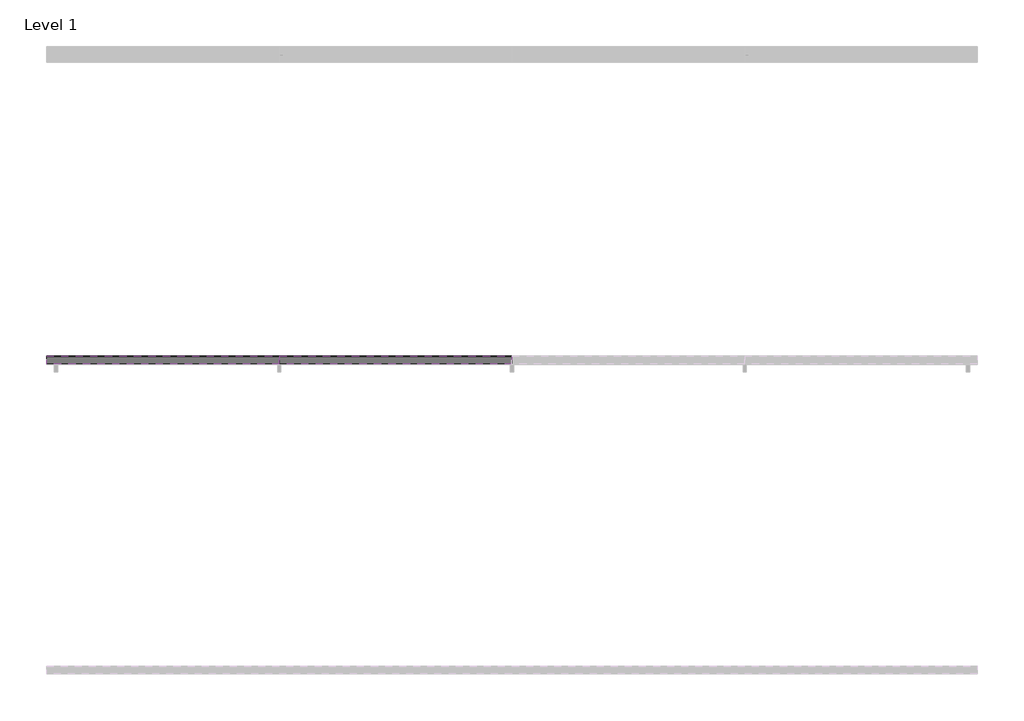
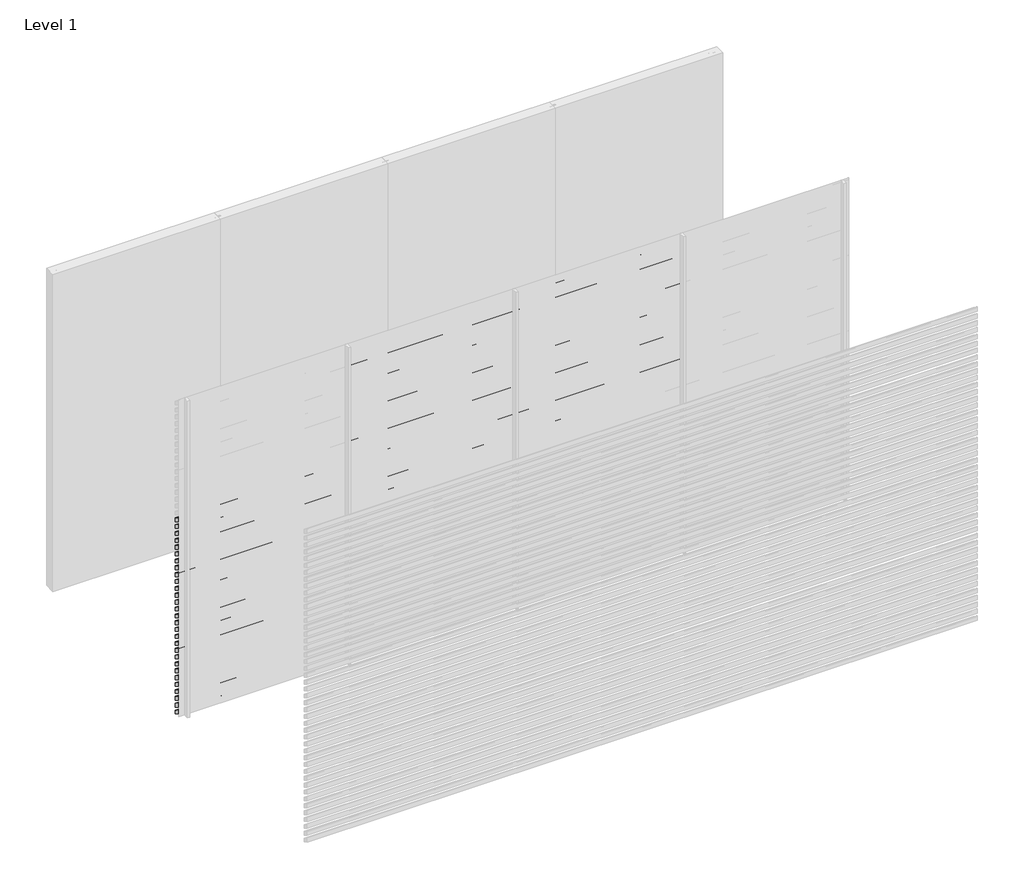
# One storey, part 7 of 10: 97 proxies.
"""IFC4 building model written with IfcOpenShell, lengths in millimetres."""

from ifc_helpers import new_model, si_unit, frame, origin, place, context, project, spatial, polyline, outline, extrude, element, save

model = new_model("IFC4")

# Units and contexts
model_context = context("Model", 3, world=origin())
ifc_project = project(units=[si_unit("LENGTHUNIT", "METRE", prefix="MILLI")], contexts=[model_context])

# Site, building, storey
site = spatial("IfcSite", under=ifc_project)
building = spatial("IfcBuilding", under=site)
storey = spatial("IfcBuildingStorey", under=building, Name="Level 1", Elevation=0.0)

# Proxies
placement = place(None, origin())
element("IfcBuildingElementProxy", 1, Name="Wall Sweeps", at=placement, inside=storey, context=model_context, shape_type="SweptSolid", body=[
    extrude(outline(polyline([(-5995.0, 1885.0), (-5995.0, 1876.2901632), (-5946.0, 1848.0), (-5946.0, 1813.0), (-5997.0, 1842.4448637), (-5997.0, 1885.0), (-5995.0, 1885.0)])), frame((0.0, 0.0, 0.0), z_axis=(1.0, 0.0, 0.0), x_axis=(0.0, 1.0, 0.0)), (0.0, 0.0, 1.0), 1500.0),
])
element("IfcBuildingElementProxy", 2, Name="Wall Sweeps", at=placement, inside=storey, context=model_context, shape_type="SweptSolid", body=[
    extrude(outline(polyline([(-5995.0, 1820.0), (-5995.0, 1811.2901632), (-5946.0, 1783.0), (-5946.0, 1748.0), (-5997.0, 1777.4448637), (-5997.0, 1820.0), (-5995.0, 1820.0)])), frame((0.0, 0.0, 0.0), z_axis=(1.0, 0.0, 0.0), x_axis=(0.0, 1.0, 0.0)), (0.0, 0.0, 1.0), 1500.0),
])
element("IfcBuildingElementProxy", 3, Name="Wall Sweeps", at=placement, inside=storey, context=model_context, shape_type="SweptSolid", body=[
    extrude(outline(polyline([(-5995.0, 1755.0), (-5995.0, 1746.2901632), (-5946.0, 1718.0), (-5946.0, 1683.0), (-5997.0, 1712.4448637), (-5997.0, 1755.0), (-5995.0, 1755.0)])), frame((0.0, 0.0, 0.0), z_axis=(1.0, 0.0, 0.0), x_axis=(0.0, 1.0, 0.0)), (0.0, 0.0, 1.0), 1500.0),
])
element("IfcBuildingElementProxy", 4, Name="Wall Sweeps", at=placement, inside=storey, context=model_context, shape_type="SweptSolid", body=[
    extrude(outline(polyline([(-5995.0, 1690.0), (-5995.0, 1681.2901632), (-5946.0, 1653.0), (-5946.0, 1618.0), (-5997.0, 1647.4448637), (-5997.0, 1690.0), (-5995.0, 1690.0)])), frame((0.0, 0.0, 0.0), z_axis=(1.0, 0.0, 0.0), x_axis=(0.0, 1.0, 0.0)), (0.0, 0.0, 1.0), 1500.0),
])
element("IfcBuildingElementProxy", 5, Name="Wall Sweeps", at=placement, inside=storey, context=model_context, shape_type="SweptSolid", body=[
    extrude(outline(polyline([(-5995.0, 1625.0), (-5995.0, 1616.2901632), (-5946.0, 1588.0), (-5946.0, 1553.0), (-5997.0, 1582.4448637), (-5997.0, 1625.0), (-5995.0, 1625.0)])), frame((0.0, 0.0, 0.0), z_axis=(1.0, 0.0, 0.0), x_axis=(0.0, 1.0, 0.0)), (0.0, 0.0, 1.0), 1500.0),
])
element("IfcBuildingElementProxy", 6, Name="Wall Sweeps", at=placement, inside=storey, context=model_context, shape_type="SweptSolid", body=[
    extrude(outline(polyline([(-5995.0, 1560.0), (-5995.0, 1551.2901632), (-5946.0, 1523.0), (-5946.0, 1488.0), (-5997.0, 1517.4448637), (-5997.0, 1560.0), (-5995.0, 1560.0)])), frame((0.0, 0.0, 0.0), z_axis=(1.0, 0.0, 0.0), x_axis=(0.0, 1.0, 0.0)), (0.0, 0.0, 1.0), 1500.0),
])
element("IfcBuildingElementProxy", 7, Name="Wall Sweeps", at=placement, inside=storey, context=model_context, shape_type="SweptSolid", body=[
    extrude(outline(polyline([(-5995.0, 1495.0), (-5995.0, 1486.2901632), (-5946.0, 1458.0), (-5946.0, 1423.0), (-5997.0, 1452.4448637), (-5997.0, 1495.0), (-5995.0, 1495.0)])), frame((0.0, 0.0, 0.0), z_axis=(1.0, 0.0, 0.0), x_axis=(0.0, 1.0, 0.0)), (0.0, 0.0, 1.0), 1500.0),
])
element("IfcBuildingElementProxy", 8, Name="Wall Sweeps", at=placement, inside=storey, context=model_context, shape_type="SweptSolid", body=[
    extrude(outline(polyline([(-5995.0, 1430.0), (-5995.0, 1421.2901632), (-5946.0, 1393.0), (-5946.0, 1358.0), (-5997.0, 1387.4448637), (-5997.0, 1430.0), (-5995.0, 1430.0)])), frame((0.0, 0.0, 0.0), z_axis=(1.0, 0.0, 0.0), x_axis=(0.0, 1.0, 0.0)), (0.0, 0.0, 1.0), 1500.0),
])
element("IfcBuildingElementProxy", 9, Name="Wall Sweeps", at=placement, inside=storey, context=model_context, shape_type="SweptSolid", body=[
    extrude(outline(polyline([(-5995.0, 1365.0), (-5995.0, 1356.2901632), (-5946.0, 1328.0), (-5946.0, 1293.0), (-5997.0, 1322.4448637), (-5997.0, 1365.0), (-5995.0, 1365.0)])), frame((0.0, 0.0, 0.0), z_axis=(1.0, 0.0, 0.0), x_axis=(0.0, 1.0, 0.0)), (0.0, 0.0, 1.0), 1500.0),
])
element("IfcBuildingElementProxy", 10, Name="Wall Sweeps", at=placement, inside=storey, context=model_context, shape_type="SweptSolid", body=[
    extrude(outline(polyline([(-5995.0, 1300.0), (-5995.0, 1291.2901632), (-5946.0, 1263.0), (-5946.0, 1228.0), (-5997.0, 1257.4448637), (-5997.0, 1300.0), (-5995.0, 1300.0)])), frame((0.0, 0.0, 0.0), z_axis=(1.0, 0.0, 0.0), x_axis=(0.0, 1.0, 0.0)), (0.0, 0.0, 1.0), 1500.0),
])
element("IfcBuildingElementProxy", 11, Name="Wall Sweeps", at=placement, inside=storey, context=model_context, shape_type="SweptSolid", body=[
    extrude(outline(polyline([(-5995.0, 1235.0), (-5995.0, 1226.2901632), (-5946.0, 1198.0), (-5946.0, 1163.0), (-5997.0, 1192.4448637), (-5997.0, 1235.0), (-5995.0, 1235.0)])), frame((0.0, 0.0, 0.0), z_axis=(1.0, 0.0, 0.0), x_axis=(0.0, 1.0, 0.0)), (0.0, 0.0, 1.0), 1500.0),
])
element("IfcBuildingElementProxy", 12, Name="Wall Sweeps", at=placement, inside=storey, context=model_context, shape_type="SweptSolid", body=[
    extrude(outline(polyline([(-5995.0, 1170.0), (-5995.0, 1161.2901632), (-5946.0, 1133.0), (-5946.0, 1098.0), (-5997.0, 1127.4448637), (-5997.0, 1170.0), (-5995.0, 1170.0)])), frame((0.0, 0.0, 0.0), z_axis=(1.0, 0.0, 0.0), x_axis=(0.0, 1.0, 0.0)), (0.0, 0.0, 1.0), 1500.0),
])
element("IfcBuildingElementProxy", 13, Name="Wall Sweeps", at=placement, inside=storey, context=model_context, shape_type="SweptSolid", body=[
    extrude(outline(polyline([(-5995.0, 1105.0), (-5995.0, 1096.2901632), (-5946.0, 1068.0), (-5946.0, 1033.0), (-5997.0, 1062.4448637), (-5997.0, 1105.0), (-5995.0, 1105.0)])), frame((0.0, 0.0, 0.0), z_axis=(1.0, 0.0, 0.0), x_axis=(0.0, 1.0, 0.0)), (0.0, 0.0, 1.0), 1500.0),
])
element("IfcBuildingElementProxy", 14, Name="Wall Sweeps", at=placement, inside=storey, context=model_context, shape_type="SweptSolid", body=[
    extrude(outline(polyline([(-5995.0, 1040.0), (-5995.0, 1031.2901632), (-5946.0, 1003.0), (-5946.0, 968.0), (-5997.0, 997.4448637), (-5997.0, 1040.0), (-5995.0, 1040.0)])), frame((0.0, 0.0, 0.0), z_axis=(1.0, 0.0, 0.0), x_axis=(0.0, 1.0, 0.0)), (0.0, 0.0, 1.0), 1500.0),
])
element("IfcBuildingElementProxy", 15, Name="Wall Sweeps", at=placement, inside=storey, context=model_context, shape_type="SweptSolid", body=[
    extrude(outline(polyline([(-5995.0, 975.0), (-5995.0, 966.2901632), (-5946.0, 938.0), (-5946.0, 903.0), (-5997.0, 932.4448637), (-5997.0, 975.0), (-5995.0, 975.0)])), frame((0.0, 0.0, 0.0), z_axis=(1.0, 0.0, 0.0), x_axis=(0.0, 1.0, 0.0)), (0.0, 0.0, 1.0), 1500.0),
])
element("IfcBuildingElementProxy", 16, Name="Wall Sweeps", at=placement, inside=storey, context=model_context, shape_type="SweptSolid", body=[
    extrude(outline(polyline([(-5995.0, 910.0), (-5995.0, 901.2901632), (-5946.0, 873.0), (-5946.0, 838.0), (-5997.0, 867.4448637), (-5997.0, 910.0), (-5995.0, 910.0)])), frame((0.0, 0.0, 0.0), z_axis=(1.0, 0.0, 0.0), x_axis=(0.0, 1.0, 0.0)), (0.0, 0.0, 1.0), 1500.0),
])
element("IfcBuildingElementProxy", 17, Name="Wall Sweeps", at=placement, inside=storey, context=model_context, shape_type="SweptSolid", body=[
    extrude(outline(polyline([(-5995.0, 845.0), (-5995.0, 836.2901632), (-5946.0, 808.0), (-5946.0, 773.0), (-5997.0, 802.4448637), (-5997.0, 845.0), (-5995.0, 845.0)])), frame((0.0, 0.0, 0.0), z_axis=(1.0, 0.0, 0.0), x_axis=(0.0, 1.0, 0.0)), (0.0, 0.0, 1.0), 1500.0),
])
element("IfcBuildingElementProxy", 18, Name="Wall Sweeps", at=placement, inside=storey, context=model_context, shape_type="SweptSolid", body=[
    extrude(outline(polyline([(-5995.0, 780.0), (-5995.0, 771.2901632), (-5946.0, 743.0), (-5946.0, 708.0), (-5997.0, 737.4448637), (-5997.0, 780.0), (-5995.0, 780.0)])), frame((0.0, 0.0, 0.0), z_axis=(1.0, 0.0, 0.0), x_axis=(0.0, 1.0, 0.0)), (0.0, 0.0, 1.0), 1500.0),
])
element("IfcBuildingElementProxy", 19, Name="Wall Sweeps", at=placement, inside=storey, context=model_context, shape_type="SweptSolid", body=[
    extrude(outline(polyline([(-5995.0, 715.0), (-5995.0, 706.2901632), (-5946.0, 678.0), (-5946.0, 643.0), (-5997.0, 672.4448637), (-5997.0, 715.0), (-5995.0, 715.0)])), frame((0.0, 0.0, 0.0), z_axis=(1.0, 0.0, 0.0), x_axis=(0.0, 1.0, 0.0)), (0.0, 0.0, 1.0), 1500.0),
])
element("IfcBuildingElementProxy", 20, Name="Wall Sweeps", at=placement, inside=storey, context=model_context, shape_type="SweptSolid", body=[
    extrude(outline(polyline([(-5995.0, 650.0), (-5995.0, 641.2901632), (-5946.0, 613.0), (-5946.0, 578.0), (-5997.0, 607.4448637), (-5997.0, 650.0), (-5995.0, 650.0)])), frame((0.0, 0.0, 0.0), z_axis=(1.0, 0.0, 0.0), x_axis=(0.0, 1.0, 0.0)), (0.0, 0.0, 1.0), 1500.0),
])
element("IfcBuildingElementProxy", 21, Name="Wall Sweeps", at=placement, inside=storey, context=model_context, shape_type="SweptSolid", body=[
    extrude(outline(polyline([(-5995.0, 585.0), (-5995.0, 576.2901632), (-5946.0, 548.0), (-5946.0, 513.0), (-5997.0, 542.4448637), (-5997.0, 585.0), (-5995.0, 585.0)])), frame((0.0, 0.0, 0.0), z_axis=(1.0, 0.0, 0.0), x_axis=(0.0, 1.0, 0.0)), (0.0, 0.0, 1.0), 1500.0),
])
element("IfcBuildingElementProxy", 22, Name="Wall Sweeps", at=placement, inside=storey, context=model_context, shape_type="SweptSolid", body=[
    extrude(outline(polyline([(-5995.0, 520.0), (-5995.0, 511.2901632), (-5946.0, 483.0), (-5946.0, 448.0), (-5997.0, 477.4448637), (-5997.0, 520.0), (-5995.0, 520.0)])), frame((0.0, 0.0, 0.0), z_axis=(1.0, 0.0, 0.0), x_axis=(0.0, 1.0, 0.0)), (0.0, 0.0, 1.0), 1500.0),
])
element("IfcBuildingElementProxy", 23, Name="Wall Sweeps", at=placement, inside=storey, context=model_context, shape_type="SweptSolid", body=[
    extrude(outline(polyline([(-5995.0, 455.0), (-5995.0, 446.2901632), (-5946.0, 418.0), (-5946.0, 383.0), (-5997.0, 412.4448637), (-5997.0, 455.0), (-5995.0, 455.0)])), frame((0.0, 0.0, 0.0), z_axis=(1.0, 0.0, 0.0), x_axis=(0.0, 1.0, 0.0)), (0.0, 0.0, 1.0), 1500.0),
])
element("IfcBuildingElementProxy", 24, Name="Wall Sweeps", at=placement, inside=storey, context=model_context, shape_type="SweptSolid", body=[
    extrude(outline(polyline([(-5995.0, 390.0), (-5995.0, 381.2901632), (-5946.0, 353.0), (-5946.0, 318.0), (-5997.0, 347.4448637), (-5997.0, 390.0), (-5995.0, 390.0)])), frame((0.0, 0.0, 0.0), z_axis=(1.0, 0.0, 0.0), x_axis=(0.0, 1.0, 0.0)), (0.0, 0.0, 1.0), 1500.0),
])
element("IfcBuildingElementProxy", 25, Name="Wall Sweeps", at=placement, inside=storey, context=model_context, shape_type="SweptSolid", body=[
    extrude(outline(polyline([(-5995.0, 325.0), (-5995.0, 316.2901632), (-5946.0, 288.0), (-5946.0, 253.0), (-5997.0, 282.4448637), (-5997.0, 325.0), (-5995.0, 325.0)])), frame((0.0, 0.0, 0.0), z_axis=(1.0, 0.0, 0.0), x_axis=(0.0, 1.0, 0.0)), (0.0, 0.0, 1.0), 1500.0),
])
element("IfcBuildingElementProxy", 26, Name="Wall Sweeps", at=placement, inside=storey, context=model_context, shape_type="SweptSolid", body=[
    extrude(outline(polyline([(-5995.0, 260.0), (-5995.0, 251.2901632), (-5946.0, 223.0), (-5946.0, 188.0), (-5997.0, 217.4448637), (-5997.0, 260.0), (-5995.0, 260.0)])), frame((0.0, 0.0, 0.0), z_axis=(1.0, 0.0, 0.0), x_axis=(0.0, 1.0, 0.0)), (0.0, 0.0, 1.0), 1500.0),
])
element("IfcBuildingElementProxy", 27, Name="Wall Sweeps", at=placement, inside=storey, context=model_context, shape_type="SweptSolid", body=[
    extrude(outline(polyline([(-5995.0, 195.0), (-5995.0, 186.2901632), (-5946.0, 158.0), (-5946.0, 123.0), (-5997.0, 152.4448637), (-5997.0, 195.0), (-5995.0, 195.0)])), frame((0.0, 0.0, 0.0), z_axis=(1.0, 0.0, 0.0), x_axis=(0.0, 1.0, 0.0)), (0.0, 0.0, 1.0), 1500.0),
])
element("IfcBuildingElementProxy", 28, Name="Wall Sweeps", at=placement, inside=storey, context=model_context, shape_type="SweptSolid", body=[
    extrude(outline(polyline([(-5995.0, 130.0), (-5995.0, 121.2901632), (-5946.0, 93.0), (-5946.0, 58.0), (-5997.0, 87.4448637), (-5997.0, 130.0), (-5995.0, 130.0)])), frame((0.0, 0.0, 0.0), z_axis=(1.0, 0.0, 0.0), x_axis=(0.0, 1.0, 0.0)), (0.0, 0.0, 1.0), 1500.0),
])
element("IfcBuildingElementProxy", 29, Name="Wall Sweeps", at=placement, inside=storey, context=model_context, shape_type="SweptSolid", body=[
    extrude(outline(polyline([(-5995.0, 65.0), (-5995.0, 56.2901632), (-5946.0, 28.0), (-5946.0, -7.0), (-5997.0, 22.4448637), (-5997.0, 65.0), (-5995.0, 65.0)])), frame((0.0, 0.0, 0.0), z_axis=(1.0, 0.0, 0.0), x_axis=(0.0, 1.0, 0.0)), (0.0, 0.0, 1.0), 1500.0),
])
element("IfcBuildingElementProxy", 30, Name="Wall Sweeps", at=placement, inside=storey, context=model_context, shape_type="SweptSolid", body=[
    extrude(outline(polyline([(-5995.0, 2990.0), (-5995.0, 2981.2901632), (-5946.0, 2953.0), (-5946.0, 2918.0), (-5997.0, 2947.4448637), (-5997.0, 2990.0), (-5995.0, 2990.0)])), frame((1500.0, 0.0, 0.0), z_axis=(1.0, 0.0, 0.0), x_axis=(0.0, 1.0, 0.0)), (0.0, 0.0, 1.0), 1500.0),
])
element("IfcBuildingElementProxy", 31, Name="Wall Sweeps", at=placement, inside=storey, context=model_context, shape_type="SweptSolid", body=[
    extrude(outline(polyline([(-5995.0, 2925.0), (-5995.0, 2916.2901632), (-5946.0, 2888.0), (-5946.0, 2853.0), (-5997.0, 2882.4448637), (-5997.0, 2925.0), (-5995.0, 2925.0)])), frame((1500.0, 0.0, 0.0), z_axis=(1.0, 0.0, 0.0), x_axis=(0.0, 1.0, 0.0)), (0.0, 0.0, 1.0), 1500.0),
])
element("IfcBuildingElementProxy", 32, Name="Wall Sweeps", at=placement, inside=storey, context=model_context, shape_type="SweptSolid", body=[
    extrude(outline(polyline([(-5995.0, 2860.0), (-5995.0, 2851.2901632), (-5946.0, 2823.0), (-5946.0, 2788.0), (-5997.0, 2817.4448637), (-5997.0, 2860.0), (-5995.0, 2860.0)])), frame((1500.0, 0.0, 0.0), z_axis=(1.0, 0.0, 0.0), x_axis=(0.0, 1.0, 0.0)), (0.0, 0.0, 1.0), 1500.0),
])
element("IfcBuildingElementProxy", 33, Name="Wall Sweeps", at=placement, inside=storey, context=model_context, shape_type="SweptSolid", body=[
    extrude(outline(polyline([(-5995.0, 2795.0), (-5995.0, 2786.2901632), (-5946.0, 2758.0), (-5946.0, 2723.0), (-5997.0, 2752.4448637), (-5997.0, 2795.0), (-5995.0, 2795.0)])), frame((1500.0, 0.0, 0.0), z_axis=(1.0, 0.0, 0.0), x_axis=(0.0, 1.0, 0.0)), (0.0, 0.0, 1.0), 1500.0),
])
element("IfcBuildingElementProxy", 34, Name="Wall Sweeps", at=placement, inside=storey, context=model_context, shape_type="SweptSolid", body=[
    extrude(outline(polyline([(-5995.0, 2730.0), (-5995.0, 2721.2901632), (-5946.0, 2693.0), (-5946.0, 2658.0), (-5997.0, 2687.4448637), (-5997.0, 2730.0), (-5995.0, 2730.0)])), frame((1500.0, 0.0, 0.0), z_axis=(1.0, 0.0, 0.0), x_axis=(0.0, 1.0, 0.0)), (0.0, 0.0, 1.0), 1500.0),
])
element("IfcBuildingElementProxy", 35, Name="Wall Sweeps", at=placement, inside=storey, context=model_context, shape_type="SweptSolid", body=[
    extrude(outline(polyline([(-5995.0, 2665.0), (-5995.0, 2656.2901632), (-5946.0, 2628.0), (-5946.0, 2593.0), (-5997.0, 2622.4448637), (-5997.0, 2665.0), (-5995.0, 2665.0)])), frame((1500.0, 0.0, 0.0), z_axis=(1.0, 0.0, 0.0), x_axis=(0.0, 1.0, 0.0)), (0.0, 0.0, 1.0), 1500.0),
])
element("IfcBuildingElementProxy", 36, Name="Wall Sweeps", at=placement, inside=storey, context=model_context, shape_type="SweptSolid", body=[
    extrude(outline(polyline([(-5995.0, 2600.0), (-5995.0, 2591.2901632), (-5946.0, 2563.0), (-5946.0, 2528.0), (-5997.0, 2557.4448637), (-5997.0, 2600.0), (-5995.0, 2600.0)])), frame((1500.0, 0.0, 0.0), z_axis=(1.0, 0.0, 0.0), x_axis=(0.0, 1.0, 0.0)), (0.0, 0.0, 1.0), 1500.0),
])
element("IfcBuildingElementProxy", 37, Name="Wall Sweeps", at=placement, inside=storey, context=model_context, shape_type="SweptSolid", body=[
    extrude(outline(polyline([(-5995.0, 2535.0), (-5995.0, 2526.2901632), (-5946.0, 2498.0), (-5946.0, 2463.0), (-5997.0, 2492.4448637), (-5997.0, 2535.0), (-5995.0, 2535.0)])), frame((1500.0, 0.0, 0.0), z_axis=(1.0, 0.0, 0.0), x_axis=(0.0, 1.0, 0.0)), (0.0, 0.0, 1.0), 1500.0),
])
element("IfcBuildingElementProxy", 38, Name="Wall Sweeps", at=placement, inside=storey, context=model_context, shape_type="SweptSolid", body=[
    extrude(outline(polyline([(-5995.0, 2470.0), (-5995.0, 2461.2901632), (-5946.0, 2433.0), (-5946.0, 2398.0), (-5997.0, 2427.4448637), (-5997.0, 2470.0), (-5995.0, 2470.0)])), frame((1500.0, 0.0, 0.0), z_axis=(1.0, 0.0, 0.0), x_axis=(0.0, 1.0, 0.0)), (0.0, 0.0, 1.0), 1500.0),
])
element("IfcBuildingElementProxy", 39, Name="Wall Sweeps", at=placement, inside=storey, context=model_context, shape_type="SweptSolid", body=[
    extrude(outline(polyline([(-5995.0, 2405.0), (-5995.0, 2396.2901632), (-5946.0, 2368.0), (-5946.0, 2333.0), (-5997.0, 2362.4448637), (-5997.0, 2405.0), (-5995.0, 2405.0)])), frame((1500.0, 0.0, 0.0), z_axis=(1.0, 0.0, 0.0), x_axis=(0.0, 1.0, 0.0)), (0.0, 0.0, 1.0), 1500.0),
])
element("IfcBuildingElementProxy", 40, Name="Wall Sweeps", at=placement, inside=storey, context=model_context, shape_type="SweptSolid", body=[
    extrude(outline(polyline([(-5995.0, 2340.0), (-5995.0, 2331.2901632), (-5946.0, 2303.0), (-5946.0, 2268.0), (-5997.0, 2297.4448637), (-5997.0, 2340.0), (-5995.0, 2340.0)])), frame((1500.0, 0.0, 0.0), z_axis=(1.0, 0.0, 0.0), x_axis=(0.0, 1.0, 0.0)), (0.0, 0.0, 1.0), 1500.0),
])
element("IfcBuildingElementProxy", 41, Name="Wall Sweeps", at=placement, inside=storey, context=model_context, shape_type="SweptSolid", body=[
    extrude(outline(polyline([(-5995.0, 2275.0), (-5995.0, 2266.2901632), (-5946.0, 2238.0), (-5946.0, 2203.0), (-5997.0, 2232.4448637), (-5997.0, 2275.0), (-5995.0, 2275.0)])), frame((1500.0, 0.0, 0.0), z_axis=(1.0, 0.0, 0.0), x_axis=(0.0, 1.0, 0.0)), (0.0, 0.0, 1.0), 1500.0),
])
element("IfcBuildingElementProxy", 42, Name="Wall Sweeps", at=placement, inside=storey, context=model_context, shape_type="SweptSolid", body=[
    extrude(outline(polyline([(-5995.0, 2210.0), (-5995.0, 2201.2901632), (-5946.0, 2173.0), (-5946.0, 2138.0), (-5997.0, 2167.4448637), (-5997.0, 2210.0), (-5995.0, 2210.0)])), frame((1500.0, 0.0, 0.0), z_axis=(1.0, 0.0, 0.0), x_axis=(0.0, 1.0, 0.0)), (0.0, 0.0, 1.0), 1500.0),
])
element("IfcBuildingElementProxy", 43, Name="Wall Sweeps", at=placement, inside=storey, context=model_context, shape_type="SweptSolid", body=[
    extrude(outline(polyline([(-5995.0, 2145.0), (-5995.0, 2136.2901632), (-5946.0, 2108.0), (-5946.0, 2073.0), (-5997.0, 2102.4448637), (-5997.0, 2145.0), (-5995.0, 2145.0)])), frame((1500.0, 0.0, 0.0), z_axis=(1.0, 0.0, 0.0), x_axis=(0.0, 1.0, 0.0)), (0.0, 0.0, 1.0), 1500.0),
])
element("IfcBuildingElementProxy", 44, Name="Wall Sweeps", at=placement, inside=storey, context=model_context, shape_type="SweptSolid", body=[
    extrude(outline(polyline([(-5995.0, 2080.0), (-5995.0, 2071.2901632), (-5946.0, 2043.0), (-5946.0, 2008.0), (-5997.0, 2037.4448637), (-5997.0, 2080.0), (-5995.0, 2080.0)])), frame((1500.0, 0.0, 0.0), z_axis=(1.0, 0.0, 0.0), x_axis=(0.0, 1.0, 0.0)), (0.0, 0.0, 1.0), 1500.0),
])
element("IfcBuildingElementProxy", 45, Name="Wall Sweeps", at=placement, inside=storey, context=model_context, shape_type="SweptSolid", body=[
    extrude(outline(polyline([(-5995.0, 2015.0), (-5995.0, 2006.2901632), (-5946.0, 1978.0), (-5946.0, 1943.0), (-5997.0, 1972.4448637), (-5997.0, 2015.0), (-5995.0, 2015.0)])), frame((1500.0, 0.0, 0.0), z_axis=(1.0, 0.0, 0.0), x_axis=(0.0, 1.0, 0.0)), (0.0, 0.0, 1.0), 1500.0),
])
element("IfcBuildingElementProxy", 46, Name="Wall Sweeps", at=placement, inside=storey, context=model_context, shape_type="SweptSolid", body=[
    extrude(outline(polyline([(-5995.0, 1950.0), (-5995.0, 1941.2901632), (-5946.0, 1913.0), (-5946.0, 1878.0), (-5997.0, 1907.4448637), (-5997.0, 1950.0), (-5995.0, 1950.0)])), frame((1500.0, 0.0, 0.0), z_axis=(1.0, 0.0, 0.0), x_axis=(0.0, 1.0, 0.0)), (0.0, 0.0, 1.0), 1500.0),
])
element("IfcBuildingElementProxy", 47, Name="Wall Sweeps", at=placement, inside=storey, context=model_context, shape_type="SweptSolid", body=[
    extrude(outline(polyline([(-5995.0, 1885.0), (-5995.0, 1876.2901632), (-5946.0, 1848.0), (-5946.0, 1813.0), (-5997.0, 1842.4448637), (-5997.0, 1885.0), (-5995.0, 1885.0)])), frame((1500.0, 0.0, 0.0), z_axis=(1.0, 0.0, 0.0), x_axis=(0.0, 1.0, 0.0)), (0.0, 0.0, 1.0), 1500.0),
])
element("IfcBuildingElementProxy", 48, Name="Wall Sweeps", at=placement, inside=storey, context=model_context, shape_type="SweptSolid", body=[
    extrude(outline(polyline([(-5995.0, 1820.0), (-5995.0, 1811.2901632), (-5946.0, 1783.0), (-5946.0, 1748.0), (-5997.0, 1777.4448637), (-5997.0, 1820.0), (-5995.0, 1820.0)])), frame((1500.0, 0.0, 0.0), z_axis=(1.0, 0.0, 0.0), x_axis=(0.0, 1.0, 0.0)), (0.0, 0.0, 1.0), 1500.0),
])
element("IfcBuildingElementProxy", 49, Name="Wall Sweeps", at=placement, inside=storey, context=model_context, shape_type="SweptSolid", body=[
    extrude(outline(polyline([(-5995.0, 1755.0), (-5995.0, 1746.2901632), (-5946.0, 1718.0), (-5946.0, 1683.0), (-5997.0, 1712.4448637), (-5997.0, 1755.0), (-5995.0, 1755.0)])), frame((1500.0, 0.0, 0.0), z_axis=(1.0, 0.0, 0.0), x_axis=(0.0, 1.0, 0.0)), (0.0, 0.0, 1.0), 1500.0),
])
element("IfcBuildingElementProxy", 50, Name="Wall Sweeps", at=placement, inside=storey, context=model_context, shape_type="SweptSolid", body=[
    extrude(outline(polyline([(-5995.0, 1690.0), (-5995.0, 1681.2901632), (-5946.0, 1653.0), (-5946.0, 1618.0), (-5997.0, 1647.4448637), (-5997.0, 1690.0), (-5995.0, 1690.0)])), frame((1500.0, 0.0, 0.0), z_axis=(1.0, 0.0, 0.0), x_axis=(0.0, 1.0, 0.0)), (0.0, 0.0, 1.0), 1500.0),
])
element("IfcBuildingElementProxy", 51, Name="Wall Sweeps", at=placement, inside=storey, context=model_context, shape_type="SweptSolid", body=[
    extrude(outline(polyline([(-5995.0, 1625.0), (-5995.0, 1616.2901632), (-5946.0, 1588.0), (-5946.0, 1553.0), (-5997.0, 1582.4448637), (-5997.0, 1625.0), (-5995.0, 1625.0)])), frame((1500.0, 0.0, 0.0), z_axis=(1.0, 0.0, 0.0), x_axis=(0.0, 1.0, 0.0)), (0.0, 0.0, 1.0), 1500.0),
])
element("IfcBuildingElementProxy", 52, Name="Wall Sweeps", at=placement, inside=storey, context=model_context, shape_type="SweptSolid", body=[
    extrude(outline(polyline([(-5995.0, 1560.0), (-5995.0, 1551.2901632), (-5946.0, 1523.0), (-5946.0, 1488.0), (-5997.0, 1517.4448637), (-5997.0, 1560.0), (-5995.0, 1560.0)])), frame((1500.0, 0.0, 0.0), z_axis=(1.0, 0.0, 0.0), x_axis=(0.0, 1.0, 0.0)), (0.0, 0.0, 1.0), 1500.0),
])
element("IfcBuildingElementProxy", 53, Name="Wall Sweeps", at=placement, inside=storey, context=model_context, shape_type="SweptSolid", body=[
    extrude(outline(polyline([(-5995.0, 1495.0), (-5995.0, 1486.2901632), (-5946.0, 1458.0), (-5946.0, 1423.0), (-5997.0, 1452.4448637), (-5997.0, 1495.0), (-5995.0, 1495.0)])), frame((1500.0, 0.0, 0.0), z_axis=(1.0, 0.0, 0.0), x_axis=(0.0, 1.0, 0.0)), (0.0, 0.0, 1.0), 1500.0),
])
element("IfcBuildingElementProxy", 54, Name="Wall Sweeps", at=placement, inside=storey, context=model_context, shape_type="SweptSolid", body=[
    extrude(outline(polyline([(-5995.0, 1430.0), (-5995.0, 1421.2901632), (-5946.0, 1393.0), (-5946.0, 1358.0), (-5997.0, 1387.4448637), (-5997.0, 1430.0), (-5995.0, 1430.0)])), frame((1500.0, 0.0, 0.0), z_axis=(1.0, 0.0, 0.0), x_axis=(0.0, 1.0, 0.0)), (0.0, 0.0, 1.0), 1500.0),
])
element("IfcBuildingElementProxy", 55, Name="Wall Sweeps", at=placement, inside=storey, context=model_context, shape_type="SweptSolid", body=[
    extrude(outline(polyline([(-5995.0, 1365.0), (-5995.0, 1356.2901632), (-5946.0, 1328.0), (-5946.0, 1293.0), (-5997.0, 1322.4448637), (-5997.0, 1365.0), (-5995.0, 1365.0)])), frame((1500.0, 0.0, 0.0), z_axis=(1.0, 0.0, 0.0), x_axis=(0.0, 1.0, 0.0)), (0.0, 0.0, 1.0), 1500.0),
])
element("IfcBuildingElementProxy", 56, Name="Wall Sweeps", at=placement, inside=storey, context=model_context, shape_type="SweptSolid", body=[
    extrude(outline(polyline([(-5995.0, 1300.0), (-5995.0, 1291.2901632), (-5946.0, 1263.0), (-5946.0, 1228.0), (-5997.0, 1257.4448637), (-5997.0, 1300.0), (-5995.0, 1300.0)])), frame((1500.0, 0.0, 0.0), z_axis=(1.0, 0.0, 0.0), x_axis=(0.0, 1.0, 0.0)), (0.0, 0.0, 1.0), 1500.0),
])
element("IfcBuildingElementProxy", 57, Name="Wall Sweeps", at=placement, inside=storey, context=model_context, shape_type="SweptSolid", body=[
    extrude(outline(polyline([(-5995.0, 1235.0), (-5995.0, 1226.2901632), (-5946.0, 1198.0), (-5946.0, 1163.0), (-5997.0, 1192.4448637), (-5997.0, 1235.0), (-5995.0, 1235.0)])), frame((1500.0, 0.0, 0.0), z_axis=(1.0, 0.0, 0.0), x_axis=(0.0, 1.0, 0.0)), (0.0, 0.0, 1.0), 1500.0),
])
element("IfcBuildingElementProxy", 58, Name="Wall Sweeps", at=placement, inside=storey, context=model_context, shape_type="SweptSolid", body=[
    extrude(outline(polyline([(-5995.0, 1170.0), (-5995.0, 1161.2901632), (-5946.0, 1133.0), (-5946.0, 1098.0), (-5997.0, 1127.4448637), (-5997.0, 1170.0), (-5995.0, 1170.0)])), frame((1500.0, 0.0, 0.0), z_axis=(1.0, 0.0, 0.0), x_axis=(0.0, 1.0, 0.0)), (0.0, 0.0, 1.0), 1500.0),
])
element("IfcBuildingElementProxy", 59, Name="Wall Sweeps", at=placement, inside=storey, context=model_context, shape_type="SweptSolid", body=[
    extrude(outline(polyline([(-5995.0, 1105.0), (-5995.0, 1096.2901632), (-5946.0, 1068.0), (-5946.0, 1033.0), (-5997.0, 1062.4448637), (-5997.0, 1105.0), (-5995.0, 1105.0)])), frame((1500.0, 0.0, 0.0), z_axis=(1.0, 0.0, 0.0), x_axis=(0.0, 1.0, 0.0)), (0.0, 0.0, 1.0), 1500.0),
])
element("IfcBuildingElementProxy", 60, Name="Wall Sweeps", at=placement, inside=storey, context=model_context, shape_type="SweptSolid", body=[
    extrude(outline(polyline([(-5995.0, 1040.0), (-5995.0, 1031.2901632), (-5946.0, 1003.0), (-5946.0, 968.0), (-5997.0, 997.4448637), (-5997.0, 1040.0), (-5995.0, 1040.0)])), frame((1500.0, 0.0, 0.0), z_axis=(1.0, 0.0, 0.0), x_axis=(0.0, 1.0, 0.0)), (0.0, 0.0, 1.0), 1500.0),
])
element("IfcBuildingElementProxy", 61, Name="Wall Sweeps", at=placement, inside=storey, context=model_context, shape_type="SweptSolid", body=[
    extrude(outline(polyline([(-5995.0, 975.0), (-5995.0, 966.2901632), (-5946.0, 938.0), (-5946.0, 903.0), (-5997.0, 932.4448637), (-5997.0, 975.0), (-5995.0, 975.0)])), frame((1500.0, 0.0, 0.0), z_axis=(1.0, 0.0, 0.0), x_axis=(0.0, 1.0, 0.0)), (0.0, 0.0, 1.0), 1500.0),
])
element("IfcBuildingElementProxy", 62, Name="Wall Sweeps", at=placement, inside=storey, context=model_context, shape_type="SweptSolid", body=[
    extrude(outline(polyline([(-5995.0, 910.0), (-5995.0, 901.2901632), (-5946.0, 873.0), (-5946.0, 838.0), (-5997.0, 867.4448637), (-5997.0, 910.0), (-5995.0, 910.0)])), frame((1500.0, 0.0, 0.0), z_axis=(1.0, 0.0, 0.0), x_axis=(0.0, 1.0, 0.0)), (0.0, 0.0, 1.0), 1500.0),
])
element("IfcBuildingElementProxy", 63, Name="Wall Sweeps", at=placement, inside=storey, context=model_context, shape_type="SweptSolid", body=[
    extrude(outline(polyline([(-5995.0, 845.0), (-5995.0, 836.2901632), (-5946.0, 808.0), (-5946.0, 773.0), (-5997.0, 802.4448637), (-5997.0, 845.0), (-5995.0, 845.0)])), frame((1500.0, 0.0, 0.0), z_axis=(1.0, 0.0, 0.0), x_axis=(0.0, 1.0, 0.0)), (0.0, 0.0, 1.0), 1500.0),
])
element("IfcBuildingElementProxy", 64, Name="Wall Sweeps", at=placement, inside=storey, context=model_context, shape_type="SweptSolid", body=[
    extrude(outline(polyline([(-5995.0, 780.0), (-5995.0, 771.2901632), (-5946.0, 743.0), (-5946.0, 708.0), (-5997.0, 737.4448637), (-5997.0, 780.0), (-5995.0, 780.0)])), frame((1500.0, 0.0, 0.0), z_axis=(1.0, 0.0, 0.0), x_axis=(0.0, 1.0, 0.0)), (0.0, 0.0, 1.0), 1500.0),
])
element("IfcBuildingElementProxy", 65, Name="Wall Sweeps", at=placement, inside=storey, context=model_context, shape_type="SweptSolid", body=[
    extrude(outline(polyline([(-5995.0, 715.0), (-5995.0, 706.2901632), (-5946.0, 678.0), (-5946.0, 643.0), (-5997.0, 672.4448637), (-5997.0, 715.0), (-5995.0, 715.0)])), frame((1500.0, 0.0, 0.0), z_axis=(1.0, 0.0, 0.0), x_axis=(0.0, 1.0, 0.0)), (0.0, 0.0, 1.0), 1500.0),
])
element("IfcBuildingElementProxy", 66, Name="Wall Sweeps", at=placement, inside=storey, context=model_context, shape_type="SweptSolid", body=[
    extrude(outline(polyline([(-5995.0, 650.0), (-5995.0, 641.2901632), (-5946.0, 613.0), (-5946.0, 578.0), (-5997.0, 607.4448637), (-5997.0, 650.0), (-5995.0, 650.0)])), frame((1500.0, 0.0, 0.0), z_axis=(1.0, 0.0, 0.0), x_axis=(0.0, 1.0, 0.0)), (0.0, 0.0, 1.0), 1500.0),
])
element("IfcBuildingElementProxy", 67, Name="Wall Sweeps", at=placement, inside=storey, context=model_context, shape_type="SweptSolid", body=[
    extrude(outline(polyline([(-5995.0, 585.0), (-5995.0, 576.2901632), (-5946.0, 548.0), (-5946.0, 513.0), (-5997.0, 542.4448637), (-5997.0, 585.0), (-5995.0, 585.0)])), frame((1500.0, 0.0, 0.0), z_axis=(1.0, 0.0, 0.0), x_axis=(0.0, 1.0, 0.0)), (0.0, 0.0, 1.0), 1500.0),
])
element("IfcBuildingElementProxy", 68, Name="Wall Sweeps", at=placement, inside=storey, context=model_context, shape_type="SweptSolid", body=[
    extrude(outline(polyline([(-5995.0, 520.0), (-5995.0, 511.2901632), (-5946.0, 483.0), (-5946.0, 448.0), (-5997.0, 477.4448637), (-5997.0, 520.0), (-5995.0, 520.0)])), frame((1500.0, 0.0, 0.0), z_axis=(1.0, 0.0, 0.0), x_axis=(0.0, 1.0, 0.0)), (0.0, 0.0, 1.0), 1500.0),
])
element("IfcBuildingElementProxy", 69, Name="Wall Sweeps", at=placement, inside=storey, context=model_context, shape_type="SweptSolid", body=[
    extrude(outline(polyline([(-5995.0, 455.0), (-5995.0, 446.2901632), (-5946.0, 418.0), (-5946.0, 383.0), (-5997.0, 412.4448637), (-5997.0, 455.0), (-5995.0, 455.0)])), frame((1500.0, 0.0, 0.0), z_axis=(1.0, 0.0, 0.0), x_axis=(0.0, 1.0, 0.0)), (0.0, 0.0, 1.0), 1500.0),
])
element("IfcBuildingElementProxy", 70, Name="Wall Sweeps", at=placement, inside=storey, context=model_context, shape_type="SweptSolid", body=[
    extrude(outline(polyline([(-5995.0, 390.0), (-5995.0, 381.2901632), (-5946.0, 353.0), (-5946.0, 318.0), (-5997.0, 347.4448637), (-5997.0, 390.0), (-5995.0, 390.0)])), frame((1500.0, 0.0, 0.0), z_axis=(1.0, 0.0, 0.0), x_axis=(0.0, 1.0, 0.0)), (0.0, 0.0, 1.0), 1500.0),
])
element("IfcBuildingElementProxy", 71, Name="Wall Sweeps", at=placement, inside=storey, context=model_context, shape_type="SweptSolid", body=[
    extrude(outline(polyline([(-5995.0, 325.0), (-5995.0, 316.2901632), (-5946.0, 288.0), (-5946.0, 253.0), (-5997.0, 282.4448637), (-5997.0, 325.0), (-5995.0, 325.0)])), frame((1500.0, 0.0, 0.0), z_axis=(1.0, 0.0, 0.0), x_axis=(0.0, 1.0, 0.0)), (0.0, 0.0, 1.0), 1500.0),
])
element("IfcBuildingElementProxy", 72, Name="Wall Sweeps", at=placement, inside=storey, context=model_context, shape_type="SweptSolid", body=[
    extrude(outline(polyline([(-5995.0, 260.0), (-5995.0, 251.2901632), (-5946.0, 223.0), (-5946.0, 188.0), (-5997.0, 217.4448637), (-5997.0, 260.0), (-5995.0, 260.0)])), frame((1500.0, 0.0, 0.0), z_axis=(1.0, 0.0, 0.0), x_axis=(0.0, 1.0, 0.0)), (0.0, 0.0, 1.0), 1500.0),
])
element("IfcBuildingElementProxy", 73, Name="Wall Sweeps", at=placement, inside=storey, context=model_context, shape_type="SweptSolid", body=[
    extrude(outline(polyline([(-5995.0, 195.0), (-5995.0, 186.2901632), (-5946.0, 158.0), (-5946.0, 123.0), (-5997.0, 152.4448637), (-5997.0, 195.0), (-5995.0, 195.0)])), frame((1500.0, 0.0, 0.0), z_axis=(1.0, 0.0, 0.0), x_axis=(0.0, 1.0, 0.0)), (0.0, 0.0, 1.0), 1500.0),
])
element("IfcBuildingElementProxy", 74, Name="Wall Sweeps", at=placement, inside=storey, context=model_context, shape_type="SweptSolid", body=[
    extrude(outline(polyline([(-5995.0, 130.0), (-5995.0, 121.2901632), (-5946.0, 93.0), (-5946.0, 58.0), (-5997.0, 87.4448637), (-5997.0, 130.0), (-5995.0, 130.0)])), frame((1500.0, 0.0, 0.0), z_axis=(1.0, 0.0, 0.0), x_axis=(0.0, 1.0, 0.0)), (0.0, 0.0, 1.0), 1500.0),
])
element("IfcBuildingElementProxy", 75, Name="Wall Sweeps", at=placement, inside=storey, context=model_context, shape_type="SweptSolid", body=[
    extrude(outline(polyline([(-5995.0, 65.0), (-5995.0, 56.2901632), (-5946.0, 28.0), (-5946.0, -7.0), (-5997.0, 22.4448637), (-5997.0, 65.0), (-5995.0, 65.0)])), frame((1500.0, 0.0, 0.0), z_axis=(1.0, 0.0, 0.0), x_axis=(0.0, 1.0, 0.0)), (0.0, 0.0, 1.0), 1500.0),
])
element("IfcBuildingElementProxy", 76, Name="Wall Sweeps", at=placement, inside=storey, context=model_context, shape_type="SweptSolid", body=[
    extrude(outline(polyline([(-5995.0, 2990.0), (-5995.0, 2981.2901632), (-5946.0, 2953.0), (-5946.0, 2918.0), (-5997.0, 2947.4448637), (-5997.0, 2990.0), (-5995.0, 2990.0)])), frame((3000.0, 0.0, 0.0), z_axis=(1.0, 0.0, 0.0), x_axis=(0.0, 1.0, 0.0)), (0.0, 0.0, 1.0), 1500.0),
])
element("IfcBuildingElementProxy", 77, Name="Wall Sweeps", at=placement, inside=storey, context=model_context, shape_type="SweptSolid", body=[
    extrude(outline(polyline([(-5995.0, 2925.0), (-5995.0, 2916.2901632), (-5946.0, 2888.0), (-5946.0, 2853.0), (-5997.0, 2882.4448637), (-5997.0, 2925.0), (-5995.0, 2925.0)])), frame((3000.0, 0.0, 0.0), z_axis=(1.0, 0.0, 0.0), x_axis=(0.0, 1.0, 0.0)), (0.0, 0.0, 1.0), 1500.0),
])
element("IfcBuildingElementProxy", 78, Name="Wall Sweeps", at=placement, inside=storey, context=model_context, shape_type="SweptSolid", body=[
    extrude(outline(polyline([(-5995.0, 2860.0), (-5995.0, 2851.2901632), (-5946.0, 2823.0), (-5946.0, 2788.0), (-5997.0, 2817.4448637), (-5997.0, 2860.0), (-5995.0, 2860.0)])), frame((3000.0, 0.0, 0.0), z_axis=(1.0, 0.0, 0.0), x_axis=(0.0, 1.0, 0.0)), (0.0, 0.0, 1.0), 1500.0),
])
element("IfcBuildingElementProxy", 79, Name="Wall Sweeps", at=placement, inside=storey, context=model_context, shape_type="SweptSolid", body=[
    extrude(outline(polyline([(-5995.0, 2795.0), (-5995.0, 2786.2901632), (-5946.0, 2758.0), (-5946.0, 2723.0), (-5997.0, 2752.4448637), (-5997.0, 2795.0), (-5995.0, 2795.0)])), frame((3000.0, 0.0, 0.0), z_axis=(1.0, 0.0, 0.0), x_axis=(0.0, 1.0, 0.0)), (0.0, 0.0, 1.0), 1500.0),
])
element("IfcBuildingElementProxy", 80, Name="Wall Sweeps", at=placement, inside=storey, context=model_context, shape_type="SweptSolid", body=[
    extrude(outline(polyline([(-5995.0, 2730.0), (-5995.0, 2721.2901632), (-5946.0, 2693.0), (-5946.0, 2658.0), (-5997.0, 2687.4448637), (-5997.0, 2730.0), (-5995.0, 2730.0)])), frame((3000.0, 0.0, 0.0), z_axis=(1.0, 0.0, 0.0), x_axis=(0.0, 1.0, 0.0)), (0.0, 0.0, 1.0), 1500.0),
])
element("IfcBuildingElementProxy", 81, Name="Wall Sweeps", at=placement, inside=storey, context=model_context, shape_type="SweptSolid", body=[
    extrude(outline(polyline([(-5995.0, 2665.0), (-5995.0, 2656.2901632), (-5946.0, 2628.0), (-5946.0, 2593.0), (-5997.0, 2622.4448637), (-5997.0, 2665.0), (-5995.0, 2665.0)])), frame((3000.0, 0.0, 0.0), z_axis=(1.0, 0.0, 0.0), x_axis=(0.0, 1.0, 0.0)), (0.0, 0.0, 1.0), 1500.0),
])
element("IfcBuildingElementProxy", 82, Name="Wall Sweeps", at=placement, inside=storey, context=model_context, shape_type="SweptSolid", body=[
    extrude(outline(polyline([(-5995.0, 2600.0), (-5995.0, 2591.2901632), (-5946.0, 2563.0), (-5946.0, 2528.0), (-5997.0, 2557.4448637), (-5997.0, 2600.0), (-5995.0, 2600.0)])), frame((3000.0, 0.0, 0.0), z_axis=(1.0, 0.0, 0.0), x_axis=(0.0, 1.0, 0.0)), (0.0, 0.0, 1.0), 1500.0),
])
element("IfcBuildingElementProxy", 83, Name="Wall Sweeps", at=placement, inside=storey, context=model_context, shape_type="SweptSolid", body=[
    extrude(outline(polyline([(-5995.0, 2535.0), (-5995.0, 2526.2901632), (-5946.0, 2498.0), (-5946.0, 2463.0), (-5997.0, 2492.4448637), (-5997.0, 2535.0), (-5995.0, 2535.0)])), frame((3000.0, 0.0, 0.0), z_axis=(1.0, 0.0, 0.0), x_axis=(0.0, 1.0, 0.0)), (0.0, 0.0, 1.0), 1500.0),
])
element("IfcBuildingElementProxy", 84, Name="Wall Sweeps", at=placement, inside=storey, context=model_context, shape_type="SweptSolid", body=[
    extrude(outline(polyline([(-5995.0, 2470.0), (-5995.0, 2461.2901632), (-5946.0, 2433.0), (-5946.0, 2398.0), (-5997.0, 2427.4448637), (-5997.0, 2470.0), (-5995.0, 2470.0)])), frame((3000.0, 0.0, 0.0), z_axis=(1.0, 0.0, 0.0), x_axis=(0.0, 1.0, 0.0)), (0.0, 0.0, 1.0), 1500.0),
])
element("IfcBuildingElementProxy", 85, Name="Wall Sweeps", at=placement, inside=storey, context=model_context, shape_type="SweptSolid", body=[
    extrude(outline(polyline([(-5995.0, 2405.0), (-5995.0, 2396.2901632), (-5946.0, 2368.0), (-5946.0, 2333.0), (-5997.0, 2362.4448637), (-5997.0, 2405.0), (-5995.0, 2405.0)])), frame((3000.0, 0.0, 0.0), z_axis=(1.0, 0.0, 0.0), x_axis=(0.0, 1.0, 0.0)), (0.0, 0.0, 1.0), 1500.0),
])
element("IfcBuildingElementProxy", 86, Name="Wall Sweeps", at=placement, inside=storey, context=model_context, shape_type="SweptSolid", body=[
    extrude(outline(polyline([(-5995.0, 2340.0), (-5995.0, 2331.2901632), (-5946.0, 2303.0), (-5946.0, 2268.0), (-5997.0, 2297.4448637), (-5997.0, 2340.0), (-5995.0, 2340.0)])), frame((3000.0, 0.0, 0.0), z_axis=(1.0, 0.0, 0.0), x_axis=(0.0, 1.0, 0.0)), (0.0, 0.0, 1.0), 1500.0),
])
element("IfcBuildingElementProxy", 87, Name="Wall Sweeps", at=placement, inside=storey, context=model_context, shape_type="SweptSolid", body=[
    extrude(outline(polyline([(-5995.0, 2275.0), (-5995.0, 2266.2901632), (-5946.0, 2238.0), (-5946.0, 2203.0), (-5997.0, 2232.4448637), (-5997.0, 2275.0), (-5995.0, 2275.0)])), frame((3000.0, 0.0, 0.0), z_axis=(1.0, 0.0, 0.0), x_axis=(0.0, 1.0, 0.0)), (0.0, 0.0, 1.0), 1500.0),
])
element("IfcBuildingElementProxy", 88, Name="Wall Sweeps", at=placement, inside=storey, context=model_context, shape_type="SweptSolid", body=[
    extrude(outline(polyline([(-5995.0, 2210.0), (-5995.0, 2201.2901632), (-5946.0, 2173.0), (-5946.0, 2138.0), (-5997.0, 2167.4448637), (-5997.0, 2210.0), (-5995.0, 2210.0)])), frame((3000.0, 0.0, 0.0), z_axis=(1.0, 0.0, 0.0), x_axis=(0.0, 1.0, 0.0)), (0.0, 0.0, 1.0), 1500.0),
])
element("IfcBuildingElementProxy", 89, Name="Wall Sweeps", at=placement, inside=storey, context=model_context, shape_type="SweptSolid", body=[
    extrude(outline(polyline([(-5995.0, 2145.0), (-5995.0, 2136.2901632), (-5946.0, 2108.0), (-5946.0, 2073.0), (-5997.0, 2102.4448637), (-5997.0, 2145.0), (-5995.0, 2145.0)])), frame((3000.0, 0.0, 0.0), z_axis=(1.0, 0.0, 0.0), x_axis=(0.0, 1.0, 0.0)), (0.0, 0.0, 1.0), 1500.0),
])
element("IfcBuildingElementProxy", 90, Name="Wall Sweeps", at=placement, inside=storey, context=model_context, shape_type="SweptSolid", body=[
    extrude(outline(polyline([(-5995.0, 2080.0), (-5995.0, 2071.2901632), (-5946.0, 2043.0), (-5946.0, 2008.0), (-5997.0, 2037.4448637), (-5997.0, 2080.0), (-5995.0, 2080.0)])), frame((3000.0, 0.0, 0.0), z_axis=(1.0, 0.0, 0.0), x_axis=(0.0, 1.0, 0.0)), (0.0, 0.0, 1.0), 1500.0),
])
element("IfcBuildingElementProxy", 91, Name="Wall Sweeps", at=placement, inside=storey, context=model_context, shape_type="SweptSolid", body=[
    extrude(outline(polyline([(-5995.0, 2015.0), (-5995.0, 2006.2901632), (-5946.0, 1978.0), (-5946.0, 1943.0), (-5997.0, 1972.4448637), (-5997.0, 2015.0), (-5995.0, 2015.0)])), frame((3000.0, 0.0, 0.0), z_axis=(1.0, 0.0, 0.0), x_axis=(0.0, 1.0, 0.0)), (0.0, 0.0, 1.0), 1500.0),
])
element("IfcBuildingElementProxy", 92, Name="Wall Sweeps", at=placement, inside=storey, context=model_context, shape_type="SweptSolid", body=[
    extrude(outline(polyline([(-5995.0, 1950.0), (-5995.0, 1941.2901632), (-5946.0, 1913.0), (-5946.0, 1878.0), (-5997.0, 1907.4448637), (-5997.0, 1950.0), (-5995.0, 1950.0)])), frame((3000.0, 0.0, 0.0), z_axis=(1.0, 0.0, 0.0), x_axis=(0.0, 1.0, 0.0)), (0.0, 0.0, 1.0), 1500.0),
])
element("IfcBuildingElementProxy", 93, Name="Wall Sweeps", at=placement, inside=storey, context=model_context, shape_type="SweptSolid", body=[
    extrude(outline(polyline([(-5995.0, 1885.0), (-5995.0, 1876.2901632), (-5946.0, 1848.0), (-5946.0, 1813.0), (-5997.0, 1842.4448637), (-5997.0, 1885.0), (-5995.0, 1885.0)])), frame((3000.0, 0.0, 0.0), z_axis=(1.0, 0.0, 0.0), x_axis=(0.0, 1.0, 0.0)), (0.0, 0.0, 1.0), 1500.0),
])
element("IfcBuildingElementProxy", 94, Name="Wall Sweeps", at=placement, inside=storey, context=model_context, shape_type="SweptSolid", body=[
    extrude(outline(polyline([(-5995.0, 1820.0), (-5995.0, 1811.2901632), (-5946.0, 1783.0), (-5946.0, 1748.0), (-5997.0, 1777.4448637), (-5997.0, 1820.0), (-5995.0, 1820.0)])), frame((3000.0, 0.0, 0.0), z_axis=(1.0, 0.0, 0.0), x_axis=(0.0, 1.0, 0.0)), (0.0, 0.0, 1.0), 1500.0),
])
element("IfcBuildingElementProxy", 95, Name="Wall Sweeps", at=placement, inside=storey, context=model_context, shape_type="SweptSolid", body=[
    extrude(outline(polyline([(-5995.0, 1755.0), (-5995.0, 1746.2901632), (-5946.0, 1718.0), (-5946.0, 1683.0), (-5997.0, 1712.4448637), (-5997.0, 1755.0), (-5995.0, 1755.0)])), frame((3000.0, 0.0, 0.0), z_axis=(1.0, 0.0, 0.0), x_axis=(0.0, 1.0, 0.0)), (0.0, 0.0, 1.0), 1500.0),
])
element("IfcBuildingElementProxy", 96, Name="Wall Sweeps", at=placement, inside=storey, context=model_context, shape_type="SweptSolid", body=[
    extrude(outline(polyline([(-5995.0, 1690.0), (-5995.0, 1681.2901632), (-5946.0, 1653.0), (-5946.0, 1618.0), (-5997.0, 1647.4448637), (-5997.0, 1690.0), (-5995.0, 1690.0)])), frame((3000.0, 0.0, 0.0), z_axis=(1.0, 0.0, 0.0), x_axis=(0.0, 1.0, 0.0)), (0.0, 0.0, 1.0), 1500.0),
])
element("IfcBuildingElementProxy", 97, Name="Wall Sweeps", at=placement, inside=storey, context=model_context, shape_type="SweptSolid", body=[
    extrude(outline(polyline([(-5995.0, 1625.0), (-5995.0, 1616.2901632), (-5946.0, 1588.0), (-5946.0, 1553.0), (-5997.0, 1582.4448637), (-5997.0, 1625.0), (-5995.0, 1625.0)])), frame((3000.0, 0.0, 0.0), z_axis=(1.0, 0.0, 0.0), x_axis=(0.0, 1.0, 0.0)), (0.0, 0.0, 1.0), 1500.0),
])

save(model, "model.ifc")
